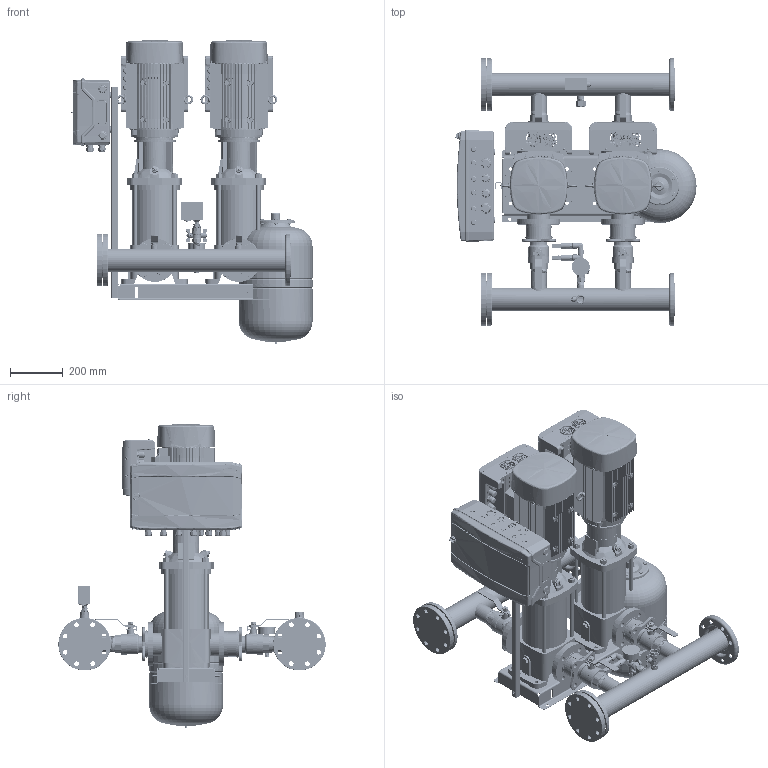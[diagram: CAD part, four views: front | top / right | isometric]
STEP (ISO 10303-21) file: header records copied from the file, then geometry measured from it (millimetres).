
FILE_DESCRIPTION(('CATIA V5 STEP Exchange','CAx-IF Rec.Pracs.--- Model Styling and Organization---1.4--- 2014-01-23','CAx-IF Rec.Pracs.---3D Tessellated Data Validation Properties---0.5---2014-09-14'),'2;1');
FILE_NAME('C:\Users\78432\YandexDisk\Drawings and 3D\3D Hydro Booster\Hydro-ME 3D\Hydro Models\Hydro ME 2 CRV15_20-xx (DIN BV)\Hydro ME 2 CRVE15-5 (DIN BV).stp','2023-09-20T12:25:30+00:00',('none'),('none'),'CATIA Version 5-6 Release 2019 SP6','CATIA V5 STEP AP242 v1','none');
FILE_SCHEMA(('AP242_MANAGED_MODEL_BASED_3D_ENGINEERING_MIM_LF {1 0 10303 442 1 1 4}'));
Products named in the file (44): Hydro ME 2 CRVE15-5 (DIN BV); 92051008; CRV15-5 set (DIN bv); CRV 15-5_A_DIN_4kW; Base; Sleeve; Pumphead; Staybolt.1; Staybolt.2; Staybolt.3; Staybolt.4; Plug; AirVent; Motor; 00id2584; 92802785; 99273085; SAJ PDH30 4-7,5kW; 97941445; 405801; 91040270; 91070073; 99110037; 97941482; 00GW4890; Holder and CP 18mod; 92878909; Control ME (18mod); 2 sensors + manometer cpl.; manometr 16 bar; RPD-I-G1_2; 9021-01; 2070 1/2-1/2; _2020 1/2-1/2; 98594078; Tank 24L cpl.; DN20_FF_BF_47.300.20; WAV-24(D140 1''); 9021-03; Relay cpl.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
Assembly tree (54 placements, depth 4):
  Hydro ME 2 CRVE15-5 (DIN BV)
    92051008
    CRV15-5 set (DIN bv)  x2
      CRV 15-5_A_DIN_4kW
        Base
        Sleeve
        Pumphead
        Staybolt.1
        Staybolt.2
        Staybolt.3
        Staybolt.4
        Plug
        AirVent
        Motor
      00id2584
      92802785
      99273085
      SAJ PDH30 4-7,5kW
    97941445  x2
      405801
      91040270
      91070073
      99110037
      97941482
    00GW4890  x2
    Holder and CP 18mod
      92878909
      Control ME (18mod)
    2 sensors + manometer cpl.
      manometr 16 bar
      RPD-I-G1_2  x2
      9021-01
      2070 1/2-1/2
      _2020 1/2-1/2
      98594078
    Tank 24L cpl.
      DN20_FF_BF_47.300.20
      9021-03
    Relay cpl.
      Relay RD-2R
      DN20_FF_BF_47.300.20
      2530 3/4-1/2
      _2530 1/2-1/4
    91078139
  WAV-24(D140 1'')
Bounding box: 916.82 x 1016.5 x 1155.77 mm (x, y, z)
Volume: 87611596.6 mm3; surface area: 8810918.3 mm2
Topology: 232 solids, 262 shells, 24023 faces, 78670 edges, 55918 vertices
Faces by surface type: plane 10080, cylinder 6409, bspline 5356, cone 1499, torus 498, sphere 181
Entity records: 684152 total; most frequent: CARTESIAN_POINT 354683, ORIENTED_EDGE 86043, EDGE_CURVE 43562, DIRECTION 37914, VERTEX_POINT 29941, B_SPLINE_CURVE_WITH_KNOTS 18503, VECTOR 17851, LINE 17851
